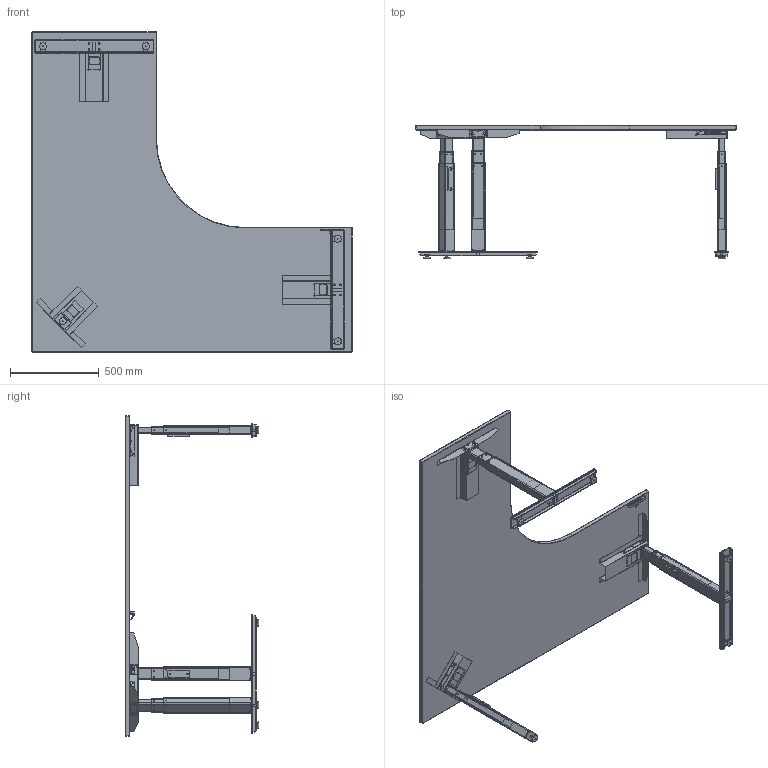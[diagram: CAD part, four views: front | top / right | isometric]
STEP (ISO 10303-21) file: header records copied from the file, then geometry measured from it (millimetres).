
FILE_DESCRIPTION(/* description */ ('','CAx-IF Rec.Pracs.---Representation and Presentation of Product Manufacturing Information (PMI)---4.0---2014-10-13'),/* implementation_level */ '2;1');
FILE_NAME(/* name */ '1800BLACK.step',/* time_stamp */ '2025-03-05T11:02:07+13:00',/* author */ (''),/* organization */ (''),/* preprocessor_version */ 'ST-DEVELOPER v20',/* originating_system */ 'Autodesk Translation Framework v13.20.0.188',/* authorisation */ '');
FILE_SCHEMA (('AP242_MANAGED_MODEL_BASED_3D_ENGINEERING_MIM_LF { 1 0 10303 442 1 1 4 }'));
Products named in the file (28): BLACK; DPF1C_DISPLAY_BRACKET; HAW LEG Long; DL6_BIFMA_WITH_BRACKET_ASM; Metalon Foot; MetalonAdjFoot; MetalonAdjFoot_1; HAW LEG Long_1; Component12; Component13; DL6_BIFMA_WITH_BRACKET_ASM_1; DL6NC_MP; STANDART_MOTORHUS_DL6_BIFMA1; DL6NC_BIFMA_OP_NEW; Metalon Foot_1; MetalonAdjFoot_2; MetalonAdjFoot_3; MetalonAdjFoot_4; HAW LEG Short v8; Component12_1; Component13_1; DL6_BIFMA_WITH_BRACKET_ASM_2; DL6NC_MP_1; STANDART_MOTORHUS_DL6_BIFMA1_1; DL6NC_BIFMA_OP_NEW_1; HAW middle leg v3; MetalonAdjFoot v8; MetalonAdjFoot_5
Assembly tree (35 placements, depth 5):
  BLACK
    DPF1C_DISPLAY_BRACKET
    HAW LEG Long
      Component12
      Component13
      DL6_BIFMA_WITH_BRACKET_ASM
        DL6NC_MP
        STANDART_MOTORHUS_DL6_BIFMA1
        DL6NC_BIFMA_OP_NEW
      Metalon Foot
        MetalonAdjFoot
          MetalonAdjFoot_4
        MetalonAdjFoot_1
          MetalonAdjFoot_4
    HAW LEG Long_1
      Component12
      Component13
      DL6_BIFMA_WITH_BRACKET_ASM_1
        DL6NC_MP
        STANDART_MOTORHUS_DL6_BIFMA1
        DL6NC_BIFMA_OP_NEW
      Metalon Foot_1
        MetalonAdjFoot_2
          MetalonAdjFoot_4
        MetalonAdjFoot_3
          MetalonAdjFoot_4
    HAW LEG Short v8
      Component12_1
      Component13_1
      DL6_BIFMA_WITH_BRACKET_ASM_2
        DL6NC_MP_1
        STANDART_MOTORHUS_DL6_BIFMA1_1
        DL6NC_BIFMA_OP_NEW_1
      HAW middle leg v3
        MetalonAdjFoot v8
          MetalonAdjFoot_5
Bounding box: 1800 x 750 x 1800 mm (x, y, z)
Volume: 69024337.5 mm3; surface area: 6529674.6 mm2
Topology: 36 solids, 37 shells, 4351 faces, 11358 edges, 7199 vertices
Faces by surface type: plane 2289, cylinder 1490, torus 235, bspline 190, sphere 133, cone 14
Full cylindrical faces by diameter (mm): 0.4 x1, 1 x2, 4.6 x6, 5 x30, 5.3 x36, 5.5 x12, 6.8 x6, 7 x6, 7.7 x4, 8 x29, 10 x4, 15 x1
Entity records: 116811 total; most frequent: CARTESIAN_POINT 38125, ORIENTED_EDGE 16430, DIRECTION 16381, EDGE_CURVE 8215, AXIS2_PLACEMENT_3D 5754, VERTEX_POINT 5228, LINE 4873, VECTOR 4873
